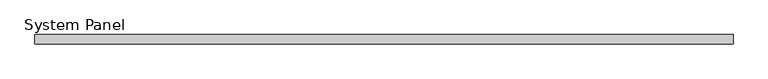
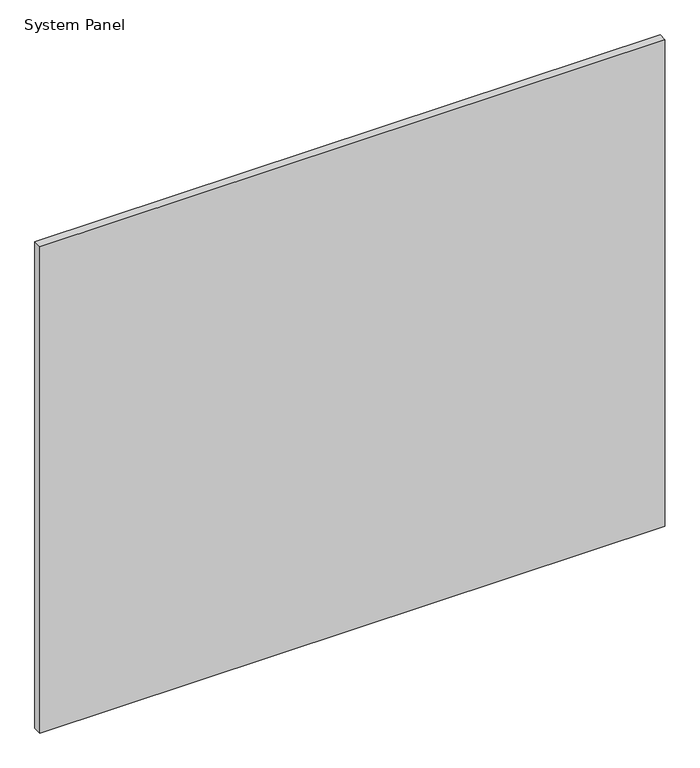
"""IFC4 building model written with IfcOpenShell, lengths in millimetres: plate geometry, System Panel : GUARDA-CORPO DE VIDRO TEMPERADO LAMINADO LISO 16 mm."""

import ifcopenshell
import ifcopenshell.guid

model = None  # the IFC model being written
_history = None  # IfcOwnerHistory: only IFC2X3 demands one
_inside = {}  # id of a spatial element -> (the spatial element, [elements in it])
_under = {}  # id of a project, library or spatial element -> (it, [spatial elements below it])
_declared = {}  # id of a project -> (the project, [libraries it declares])
_typed = {}  # id of a type object -> (the type object, [elements of that type])
_made_of = {}  # id of a material, layer set ... -> (it, [elements and type objects made of it])


def new_model(schema):
    """Start an empty IFC model of exactly this schema.

    Asked for "IFC4X3", IfcOpenShell would pick the latest addendum, in which some entities
    have other attributes; the version numbers below select the first issue.
    IFC2X3 requires an IfcOwnerHistory on every rooted entity: one is made here for all.
    """
    global model, _history
    if schema == "IFC4X3":
        model = ifcopenshell.file(schema_version=(4, 3, 0, 0))
    else:
        model = ifcopenshell.file(schema=schema)
    _inside.clear()
    _under.clear()
    _declared.clear()
    _typed.clear()
    _made_of.clear()
    _history = None
    if model.schema == "IFC2X3":
        org = make("IfcOrganization", Name="unknown")
        user = make(
            "IfcPersonAndOrganization",
            ThePerson=make("IfcPerson", FamilyName="unknown"),
            TheOrganization=org,
        )
        app = make(
            "IfcApplication",
            ApplicationDeveloper=org,
            Version="unknown",
            ApplicationFullName="unknown",
            ApplicationIdentifier="unknown",
        )
        _history = make(
            "IfcOwnerHistory",
            OwningUser=user,
            OwningApplication=app,
            ChangeAction="ADDED",
            CreationDate=0,
        )
    return model


def make(cls, **values):
    """One entity of the class cls with the attributes given. An attribute that is None is left unset."""
    return model.create_entity(
        cls, **{name: value for name, value in values.items() if value is not None}
    )


def rooted(cls, **values):
    """An entity with a GlobalId (a new one), such as an element, a storey or a relation."""
    return make(cls, GlobalId=ifcopenshell.guid.new(), OwnerHistory=_history, **values)


def si_unit(unit_type, name, prefix=None):
    """IfcSIUnit, for example si_unit("LENGTHUNIT", "METRE", prefix="MILLI")."""
    return make("IfcSIUnit", UnitType=unit_type, Prefix=prefix, Name=name)


def assignment(units):
    """IfcUnitAssignment: the units of a project."""
    return None if units is None else make("IfcUnitAssignment", Units=units)


def point(xyz):
    """IfcCartesianPoint."""
    return None if xyz is None else make("IfcCartesianPoint", Coordinates=xyz)


def direction(xyz):
    """IfcDirection."""
    return None if xyz is None else make("IfcDirection", DirectionRatios=xyz)


def frame(location, z_axis=None, x_axis=None):
    """IfcAxis2Placement3D, a coordinate frame: its origin and axes. An axis left out is left unset."""
    return make(
        "IfcAxis2Placement3D",
        Location=point(location),
        Axis=direction(z_axis),
        RefDirection=direction(x_axis),
    )


def origin():
    """The frame at (0, 0, 0) with its axes left unset."""
    return frame((0.0, 0.0, 0.0))


def origin_with_axes():
    """The frame at (0, 0, 0) with the z axis (0, 0, 1) and the x axis (1, 0, 0) written out."""
    return frame((0.0, 0.0, 0.0), z_axis=(0.0, 0.0, 1.0), x_axis=(1.0, 0.0, 0.0))


def place(relative_to, where):
    """IfcLocalPlacement: puts the frame where relative to a parent placement (None: the world)."""
    return make(
        "IfcLocalPlacement", PlacementRelTo=relative_to, RelativePlacement=where
    )


def context(
    kind, dimensions, precision=None, world=None, true_north=None, identifier=None
):
    """IfcGeometricRepresentationContext, for example the 3D "Model" context."""
    return make(
        "IfcGeometricRepresentationContext",
        ContextIdentifier=identifier,
        ContextType=kind,
        CoordinateSpaceDimension=dimensions,
        Precision=precision,
        WorldCoordinateSystem=world,
        TrueNorth=true_north,
    )


def project(units=None, contexts=None):
    """IfcProject with its units and contexts."""
    return rooted(
        "IfcProject",
        Name="project",
        RepresentationContexts=contexts,
        UnitsInContext=assignment(units),
    )


def spatial(cls, under=None, at=None, **own):
    """A site, building, storey or space (cls), placed at a placement, below another one or the project."""
    s = rooted(cls, ObjectPlacement=at, **own)
    if under is not None:
        _under.setdefault(under.id(), (under, []))[1].append(s)
    return s


def polyline(points):
    """IfcPolyline through the points."""
    return make("IfcPolyline", Points=[point(p) for p in points])


def outline(outer, holes=None, kind="AREA"):
    """IfcArbitraryClosedProfileDef: a profile drawn as a closed curve; with holes, ...WithVoids."""
    if holes is None:
        return make("IfcArbitraryClosedProfileDef", ProfileType=kind, OuterCurve=outer)
    return make(
        "IfcArbitraryProfileDefWithVoids",
        ProfileType=kind,
        OuterCurve=outer,
        InnerCurves=holes,
    )


def extrude(swept, where, along, depth):
    """IfcExtrudedAreaSolid: the profile swept, set in the frame where, extruded along a direction by depth."""
    return make(
        "IfcExtrudedAreaSolid",
        SweptArea=swept,
        Position=where,
        ExtrudedDirection=direction(along),
        Depth=depth,
    )


def shape(context_of_items, identifier, shape_type, items):
    """IfcShapeRepresentation: the items that make up one representation, for example the "Body"."""
    return make(
        "IfcShapeRepresentation",
        ContextOfItems=context_of_items,
        RepresentationIdentifier=identifier,
        RepresentationType=shape_type,
        Items=items,
    )


def source(mapping_origin, context_of_items, identifier, shape_type, items):
    """IfcRepresentationMap: a shape defined once, which mapped items show again and again."""
    return make(
        "IfcRepresentationMap",
        MappingOrigin=mapping_origin,
        MappedRepresentation=shape(context_of_items, identifier, shape_type, items),
    )


def transform(
    local_origin,
    x_axis=None,
    y_axis=None,
    z_axis=None,
    scale=None,
    scale2=None,
    scale3=None,
    uniform=True,
):
    """IfcCartesianTransformationOperator3D, or its non-uniform kind. x_axis, y_axis, z_axis: its Axis1, 2, 3."""
    if uniform:
        return make(
            "IfcCartesianTransformationOperator3D",
            Axis1=direction(x_axis),
            Axis2=direction(y_axis),
            LocalOrigin=point(local_origin),
            Scale=scale,
            Axis3=direction(z_axis),
        )
    return make(
        "IfcCartesianTransformationOperator3DnonUniform",
        Axis1=direction(x_axis),
        Axis2=direction(y_axis),
        LocalOrigin=point(local_origin),
        Scale=scale,
        Axis3=direction(z_axis),
        Scale2=scale2,
        Scale3=scale3,
    )


def mapped(mapping_source, mapping_target):
    """IfcMappedItem: shows the shape of a source again, moved by a transform."""
    return make(
        "IfcMappedItem", MappingSource=mapping_source, MappingTarget=mapping_target
    )


def made_of(thing, what):
    """Note that an element or type object is made of a material, layer set ...; save() writes the relation."""
    if what is not None:
        _made_of.setdefault(what.id(), (what, []))[1].append(thing)
    return thing


def element(
    cls,
    number,
    at=None,
    inside=None,
    cuts=None,
    type_object=None,
    material=None,
    context=None,
    identifier="Body",
    shape_type=None,
    held_by="IfcProductDefinitionShape",
    body=None,
    shapes=None,
    **own,
):
    """One element of the class cls, such as IfcWall. Its Tag is "e" and its number.

    at: its placement. inside: the storey or other place that contains it. cuts: it is an
    opening in that element (IfcRelVoidsElement). A single representation is given by context,
    identifier, shape_type and body (its items); several are given by shapes. held_by: the class
    of the entity that holds the representations. save() writes the other relations.
    """
    e = rooted(cls, Tag="e%d" % number, ObjectPlacement=at, **own)
    if body is not None:
        shapes = [shape(context, identifier, shape_type, body)]
    if shapes is not None:
        e.Representation = make(held_by, Representations=shapes)
    if inside is not None:
        _inside.setdefault(inside.id(), (inside, []))[1].append(e)
    if cuts is not None:
        rooted(
            "IfcRelVoidsElement", RelatingBuildingElement=cuts, RelatedOpeningElement=e
        )
    if type_object is not None:
        _typed.setdefault(type_object.id(), (type_object, []))[1].append(e)
    return made_of(e, material)


def aggregate(whole, parts):
    """IfcRelAggregates: a whole, such as a stair, and the parts it consists of."""
    return rooted("IfcRelAggregates", RelatingObject=whole, RelatedObjects=parts)


def save(model, path):
    """Write the relations noted so far, then the file.

    IfcRelAggregates (storeys below a building ...), IfcRelContainedInSpatialStructure (elements
    in a storey), IfcRelDefinesByType, IfcRelAssociatesMaterial and IfcRelDeclares: one each for
    every whole, place, type object, material and project.
    """
    for whole, parts in _under.values():
        aggregate(whole, parts)
    for where, things in _inside.values():
        rooted(
            "IfcRelContainedInSpatialStructure",
            RelatedElements=things,
            RelatingStructure=where,
        )
    for kind, things in _typed.values():
        rooted("IfcRelDefinesByType", RelatedObjects=things, RelatingType=kind)
    for what, things in _made_of.values():
        rooted("IfcRelAssociatesMaterial", RelatedObjects=things, RelatingMaterial=what)
    for by, libraries in _declared.values():
        rooted("IfcRelDeclares", RelatingContext=by, RelatedDefinitions=libraries)
    model.write(path)


def system_panel_bab866c8(model_context):
    return source(origin(), model_context, "Body", "SweptSolid", [
        extrude(outline(polyline([(608.0548498, -8.0), (-608.0548498, -8.0), (-608.0548498, 8.0), (608.0548498, 8.0), (608.0548498, -8.0)])), origin_with_axes(), (0.0, 0.0, 1.0), 1000.0),
    ])


if __name__ == "__main__":
    model = new_model("IFC4")
    model_context = context("Model", 3, world=origin())
    ifc_project = project(units=[si_unit("LENGTHUNIT", "METRE", prefix="MILLI")], contexts=[model_context])
    site = spatial("IfcSite", under=ifc_project)
    building = spatial("IfcBuilding", under=site)
    placement = place(None, origin())
    system_panel_shape = system_panel_bab866c8(model_context)
    element("IfcPlate", 1, ObjectType="System Panel : GUARDA-CORPO DE VIDRO TEMPERADO LAMINADO LISO 16 mm", at=placement, inside=building, context=model_context, shape_type="MappedRepresentation", body=[
        mapped(system_panel_shape, transform((0.0, 0.0, 0.0), x_axis=(1.0, 0.0, 0.0), y_axis=(0.0, 1.0, 0.0), z_axis=(0.0, 0.0, 1.0))),
    ])
    save(model, "model.ifc")
